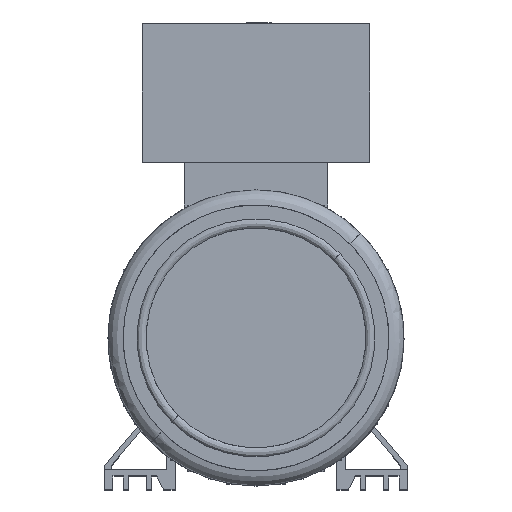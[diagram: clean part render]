
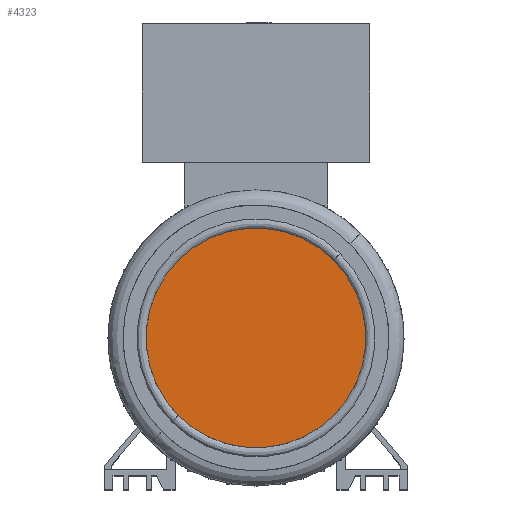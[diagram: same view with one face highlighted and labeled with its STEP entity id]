
A CAD part, top view. The second image highlights one B-rep face of the part: STEP entity #4323.
In plain terms, the highlighted planar face has unit normal (0, 0, 1).
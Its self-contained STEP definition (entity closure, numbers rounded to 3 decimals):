
#2851 = CARTESIAN_POINT ( 'NONE',  ( 0., 0., 158.5 ) ) ;
#3086 = DIRECTION ( 'NONE',  ( 0., 0., -1. ) ) ;
#4184 = AXIS2_PLACEMENT_3D ( 'NONE', #2851, #20317, #5355 ) ;
#4323 = ADVANCED_FACE ( 'NONE', ( #9860 ), #13479, .F. ) ;
#4930 = CIRCLE ( 'NONE', #19574, 65.289 ) ;
#5355 = DIRECTION ( 'NONE',  ( 0., 1., 0. ) ) ;
#6107 = EDGE_LOOP ( 'NONE', ( #14373, #21972 ) ) ;
#8335 = DIRECTION ( 'NONE',  ( 0., 1., 0. ) ) ;
#9860 = FACE_OUTER_BOUND ( 'NONE', #6107, .T. ) ;
#11834 = EDGE_CURVE ( 'NONE', #26683, #24736, #4930, .T. ) ;
#13479 = PLANE ( 'NONE',  #28756 ) ;
#13509 = CARTESIAN_POINT ( 'NONE',  ( 46.166, 46.166, 158.5 ) ) ;
#13707 = CARTESIAN_POINT ( 'NONE',  ( -46.246, 46.246, 158.5 ) ) ;
#14373 = ORIENTED_EDGE ( 'NONE', *, *, #11834, .F. ) ;
#14515 = EDGE_CURVE ( 'NONE', #24736, #26683, #29562, .T. ) ;
#19574 = AXIS2_PLACEMENT_3D ( 'NONE', #30253, #3086, #20671 ) ;
#20317 = DIRECTION ( 'NONE',  ( 0., 0., -1. ) ) ;
#20671 = DIRECTION ( 'NONE',  ( 0., 1., 0. ) ) ;
#21080 = DIRECTION ( 'NONE',  ( 0., 0., -1. ) ) ;
#21972 = ORIENTED_EDGE ( 'NONE', *, *, #14515, .F. ) ;
#24736 = VERTEX_POINT ( 'NONE', #13509 ) ;
#26683 = VERTEX_POINT ( 'NONE', #30331 ) ;
#28756 = AXIS2_PLACEMENT_3D ( 'NONE', #13707, #21080, #8335 ) ;
#29562 = CIRCLE ( 'NONE', #4184, 65.289 ) ;
#30253 = CARTESIAN_POINT ( 'NONE',  ( 0., 0., 158.5 ) ) ;
#30331 = CARTESIAN_POINT ( 'NONE',  ( -46.166, -46.166, 158.5 ) ) ;
